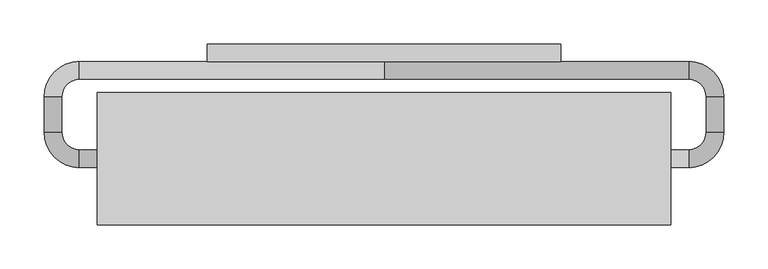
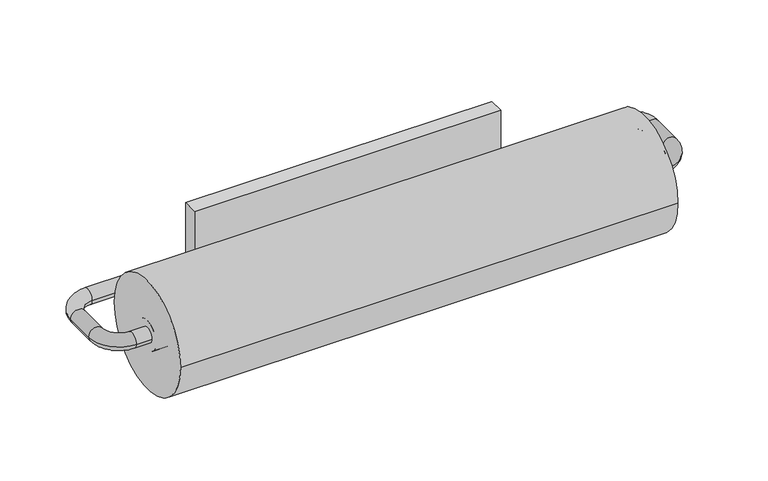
"""IFC4 building model written with IfcOpenShell, lengths in millimetres: proxy geometry, BIMHealth-Paper_Towel_Roll-LOD2A-v1 : BIMHealth-Paper_Towel_Roll-LOD2A-v1."""

from ifc_helpers import new_model, si_unit, point, frame, frame_2d, origin, place, context, project, spatial, polyline, circle_curve, ellipse_curve, trimmed, segment, composite_curve, outline, extrude, source, transform, mapped, element, save
from ifc_brep_helpers import plane_surface, cylinder_surface, revolved_surface, advanced_brep


def generic_models_3f6ca24f(model_context):
    return source(origin(), model_context, "Body", "SolidModel", [
        advanced_brep(
        [(0.0, 10.0, 1200.0), (-345.0, 10.0, 1200.0), (-345.0, -10.0, 1200.0), (0.0, -10.0, 1200.0), (-365.0, -30.0, 1200.0), (-385.0, -30.0, 1200.0), (-385.0, -70.0, 1200.0), (-365.0, -70.0, 1200.0), (-195.0, -110.0, 1200.0), (-195.0, -90.0, 1200.0), (-345.0, -90.0, 1200.0), (-345.0, -110.0, 1200.0), (345.0, -10.0, 1200.0), (345.0, 10.0, 1200.0), (385.0, -30.0, 1200.0), (365.0, -30.0, 1200.0), (365.0, -70.0, 1200.0), (385.0, -70.0, 1200.0), (195.0, -110.0, 1200.0), (195.0, -90.0, 1200.0), (345.0, -110.0, 1200.0), (345.0, -90.0, 1200.0)],
        [
            (0, 1),
            (1, 2, circle_curve(frame((-345.0, 0.0, 1200.0), z_axis=(1.0, 0.0, 0.0), x_axis=(0.0, -1.0, 0.0)), 10.0)),
            (2, 3),
            (3, 0, circle_curve(frame((0.0, 0.0, 1200.0), z_axis=(-1.0, 0.0, 0.0), x_axis=(0.0, -1.0, 0.0)), 10.0)),
            (0, 3, circle_curve(frame((0.0, 0.0, 1200.0), z_axis=(-1.0, 0.0, 0.0), x_axis=(0.0, -1.0, 0.0)), 10.0)),
            (2, 1, circle_curve(frame((-345.0, 0.0, 1200.0), z_axis=(1.0, 0.0, 0.0), x_axis=(0.0, -1.0, 0.0)), 10.0)),
            (4, 5, circle_curve(frame((-375.0, -30.0, 1200.0), z_axis=(0.0, -1.0, 0.0), x_axis=(1.0, 0.0, 0.0)), 10.0)),
            (5, 6),
            (6, 7, circle_curve(frame((-375.0, -70.0, 1200.0), z_axis=(0.0, 1.0, 0.0), x_axis=(1.0, 0.0, 0.0)), 10.0)),
            (7, 4),
            (5, 4, circle_curve(frame((-375.0, -30.0, 1200.0), z_axis=(0.0, -1.0, 0.0), x_axis=(1.0, 0.0, 0.0)), 10.0)),
            (7, 6, circle_curve(frame((-375.0, -70.0, 1200.0), z_axis=(0.0, 1.0, 0.0), x_axis=(1.0, 0.0, 0.0)), 10.0)),
            (8, 9, circle_curve(frame((-195.0, -100.0, 1200.0), z_axis=(1.0, 0.0, 0.0), x_axis=(0.0, 1.0, 0.0)), 10.0)),
            (9, 8, circle_curve(frame((-195.0, -100.0, 1200.0), z_axis=(1.0, 0.0, 0.0), x_axis=(0.0, 1.0, 0.0)), 10.0)),
            (9, 10),
            (10, 11, circle_curve(frame((-345.0, -100.0, 1200.0), z_axis=(1.0, 0.0, 0.0), x_axis=(0.0, 1.0, 0.0)), 10.0)),
            (11, 8),
            (11, 10, circle_curve(frame((-345.0, -100.0, 1200.0), z_axis=(1.0, 0.0, 0.0), x_axis=(0.0, 1.0, 0.0)), 10.0)),
            (1, 5, circle_curve(frame((-345.0, -30.0, 1200.0), z_axis=(0.0, 0.0, 1.0), x_axis=(0.0, 1.0, 0.0)), 40.0)),
            (4, 2, circle_curve(frame((-345.0, -30.0, 1200.0), z_axis=(0.0, 0.0, -1.0), x_axis=(0.0, 1.0, 0.0)), 20.0)),
            (6, 11, circle_curve(frame((-345.0, -70.0, 1200.0), z_axis=(0.0, 0.0, 1.0), x_axis=(-1.0, 0.0, 0.0)), 40.0)),
            (10, 7, circle_curve(frame((-345.0, -70.0, 1200.0), z_axis=(0.0, 0.0, -1.0), x_axis=(-1.0, 0.0, 0.0)), 20.0)),
            (3, 12),
            (12, 13, circle_curve(frame((345.0, 0.0, 1200.0), z_axis=(-1.0, 0.0, 0.0), x_axis=(0.0, -1.0, 0.0)), 10.0)),
            (13, 0),
            (13, 12, circle_curve(frame((345.0, 0.0, 1200.0), z_axis=(-1.0, 0.0, 0.0), x_axis=(0.0, -1.0, 0.0)), 10.0)),
            (14, 15, circle_curve(frame((375.0, -30.0, 1200.0), z_axis=(0.0, -1.0, 0.0), x_axis=(-1.0, 0.0, 0.0)), 10.0)),
            (15, 16),
            (16, 17, circle_curve(frame((375.0, -70.0, 1200.0), z_axis=(0.0, 1.0, 0.0), x_axis=(-1.0, 0.0, 0.0)), 10.0)),
            (17, 14),
            (15, 14, circle_curve(frame((375.0, -30.0, 1200.0), z_axis=(0.0, -1.0, 0.0), x_axis=(-1.0, 0.0, 0.0)), 10.0)),
            (17, 16, circle_curve(frame((375.0, -70.0, 1200.0), z_axis=(0.0, 1.0, 0.0), x_axis=(-1.0, 0.0, 0.0)), 10.0)),
            (18, 19, circle_curve(frame((195.0, -100.0, 1200.0), z_axis=(-1.0, 0.0, 0.0), x_axis=(0.0, 1.0, 0.0)), 10.0)),
            (19, 18, circle_curve(frame((195.0, -100.0, 1200.0), z_axis=(-1.0, 0.0, 0.0), x_axis=(0.0, 1.0, 0.0)), 10.0)),
            (18, 20),
            (20, 21, circle_curve(frame((345.0, -100.0, 1200.0), z_axis=(-1.0, 0.0, 0.0), x_axis=(0.0, 1.0, 0.0)), 10.0)),
            (21, 19),
            (21, 20, circle_curve(frame((345.0, -100.0, 1200.0), z_axis=(-1.0, 0.0, 0.0), x_axis=(0.0, 1.0, 0.0)), 10.0)),
            (12, 15, circle_curve(frame((345.0, -30.0, 1200.0), z_axis=(0.0, 0.0, -1.0), x_axis=(0.0, 1.0, 0.0)), 20.0)),
            (14, 13, circle_curve(frame((345.0, -30.0, 1200.0), z_axis=(0.0, 0.0, 1.0), x_axis=(0.0, 1.0, 0.0)), 40.0)),
            (16, 21, circle_curve(frame((345.0, -70.0, 1200.0), z_axis=(0.0, 0.0, -1.0), x_axis=(1.0, 0.0, 0.0)), 20.0)),
            (20, 17, circle_curve(frame((345.0, -70.0, 1200.0), z_axis=(0.0, 0.0, 1.0), x_axis=(1.0, 0.0, 0.0)), 40.0)),
        ],
        [
            cylinder_surface(frame((0.0, 0.0, 1200.0), z_axis=(1.0, 0.0, 0.0), x_axis=(0.0, -1.0, 0.0)), 10.0),
            cylinder_surface(frame((-375.0, -30.0, 1200.0), z_axis=(0.0, 1.0, 0.0), x_axis=(1.0, 0.0, 0.0)), 10.0),
            plane_surface(frame((-195.0, -100.0, 0.0), z_axis=(1.0, 0.0, 0.0), x_axis=(0.0, 0.0, 1.0))),
            cylinder_surface(frame((-345.0, -100.0, 1200.0), z_axis=(-1.0, 0.0, 0.0), x_axis=(0.0, 1.0, 0.0)), 10.0),
            revolved_surface(trimmed(ellipse_curve(frame((-345.0, 0.0, 1200.0), z_axis=(1.0, 0.0, 0.0), x_axis=(0.0, -1.0, 0.0)), 10.0, 10.0), [point((-345.0, 10.0, 1200.0))], [point((-345.0, -10.0, 1200.0))], True, "CARTESIAN"), (-345.0, -30.0, 0.0), (0.0, 0.0, 1.0)),
            revolved_surface(trimmed(ellipse_curve(frame((-345.0, 0.0, 1200.0), z_axis=(1.0, 0.0, 0.0), x_axis=(0.0, -1.0, 0.0)), 10.0, 10.0), [point((-345.0, -10.0, 1200.0))], [point((-345.0, 10.0, 1200.0))], True, "CARTESIAN"), (-345.0, -30.0, 0.0), (0.0, 0.0, 1.0)),
            revolved_surface(trimmed(ellipse_curve(frame((-375.0, -70.0, 1200.0), z_axis=(0.0, 1.0, 0.0), x_axis=(1.0, 0.0, 0.0)), 10.0, 10.0), [point((-385.0, -70.0, 1200.0))], [point((-365.0, -70.0, 1200.0))], True, "CARTESIAN"), (-345.0, -70.0, 0.0), (0.0, 0.0, 1.0)),
            revolved_surface(trimmed(ellipse_curve(frame((-375.0, -70.0, 1200.0), z_axis=(0.0, 1.0, 0.0), x_axis=(1.0, 0.0, 0.0)), 10.0, 10.0), [point((-365.0, -70.0, 1200.0))], [point((-385.0, -70.0, 1200.0))], True, "CARTESIAN"), (-345.0, -70.0, 0.0), (0.0, 0.0, 1.0)),
            cylinder_surface(frame((0.0, 0.0, 1200.0), z_axis=(-1.0, 0.0, 0.0), x_axis=(0.0, -1.0, 0.0)), 10.0),
            cylinder_surface(frame((375.0, -30.0, 1200.0), z_axis=(0.0, 1.0, 0.0), x_axis=(-1.0, 0.0, 0.0)), 10.0),
            plane_surface(frame((195.0, -100.0, 0.0), z_axis=(-1.0, 0.0, 0.0), x_axis=(0.0, 0.0, 1.0))),
            cylinder_surface(frame((345.0, -100.0, 1200.0), z_axis=(1.0, 0.0, 0.0), x_axis=(0.0, 1.0, 0.0)), 10.0),
            revolved_surface(trimmed(ellipse_curve(frame((345.0, 0.0, 1200.0), z_axis=(-1.0, 0.0, 0.0), x_axis=(0.0, -1.0, 0.0)), 10.0, 10.0), [point((345.0, -10.0, 1200.0))], [point((345.0, 10.0, 1200.0))], True, "CARTESIAN"), (345.0, -30.0, 0.0), (0.0, 0.0, -1.0)),
            revolved_surface(trimmed(ellipse_curve(frame((345.0, 0.0, 1200.0), z_axis=(-1.0, 0.0, 0.0), x_axis=(0.0, -1.0, 0.0)), 10.0, 10.0), [point((345.0, 10.0, 1200.0))], [point((345.0, -10.0, 1200.0))], True, "CARTESIAN"), (345.0, -30.0, 0.0), (0.0, 0.0, -1.0)),
            revolved_surface(trimmed(ellipse_curve(frame((375.0, -70.0, 1200.0), z_axis=(0.0, 1.0, 0.0), x_axis=(-1.0, 0.0, 0.0)), 10.0, 10.0), [point((365.0, -70.0, 1200.0))], [point((385.0, -70.0, 1200.0))], True, "CARTESIAN"), (345.0, -70.0, 0.0), (0.0, 0.0, -1.0)),
            revolved_surface(trimmed(ellipse_curve(frame((375.0, -70.0, 1200.0), z_axis=(0.0, 1.0, 0.0), x_axis=(-1.0, 0.0, 0.0)), 10.0, 10.0), [point((385.0, -70.0, 1200.0))], [point((365.0, -70.0, 1200.0))], True, "CARTESIAN"), (345.0, -70.0, 0.0), (0.0, 0.0, -1.0)),
        ],
        [
            (0, [[1, 2, 3, 4]]),
            (0, [[-1, 5, -3, 6]]),
            (1, [[7, 8, 9, 10]]),
            (1, [[-8, 11, -10, 12]]),
            (2, [[13, 14]]),
            (3, [[-14, 15, 16, 17]]),
            (3, [[-13, -17, 18, -15]]),
            (4, [[-2, 19, -7, 20]]),
            (5, [[-6, -20, -11, -19]]),
            (6, [[-9, 21, -16, 22]]),
            (7, [[-12, -22, -18, -21]]),
            (8, [[23, 24, 25, -4]]),
            (8, [[-23, -5, -25, 26]]),
            (9, [[27, 28, 29, 30]]),
            (9, [[-28, 31, -30, 32]]),
            (10, [[33, 34]]),
            (11, [[-33, 35, 36, 37]]),
            (11, [[-34, -37, 38, -35]]),
            (12, [[-24, 39, -27, 40]]),
            (13, [[-26, -40, -31, -39]]),
            (14, [[-29, 41, -36, 42]]),
            (15, [[-32, -42, -38, -41]]),
        ],
    ),
        extrude(outline(polyline([(-200.0, 10.0), (-200.0, 30.0), (200.0, 30.0), (200.0, 10.0), (-200.0, 10.0)])), frame((0.0, 0.0, 1140.0), z_axis=(0.0, 0.0, 1.0), x_axis=(1.0, 0.0, 0.0)), (0.0, 0.0, 1.0), 120.0),
        extrude(outline(composite_curve([segment(trimmed(circle_curve(frame_2d((-100.0, 1200.0)), 75.0), [point((-25.0, 1200.0))], [point((-175.0, 1200.0))], False, "CARTESIAN"), True, "CONTINUOUS"), segment(trimmed(circle_curve(frame_2d((-100.0, 1200.0)), 75.0), [point((-175.0, 1200.0))], [point((-25.0, 1200.0))], False, "CARTESIAN"), True, "CONTINUOUS")], self_intersect=False)), frame((-325.0, 0.0, 0.0), z_axis=(1.0, 0.0, 0.0), x_axis=(0.0, 1.0, 0.0)), (0.0, 0.0, 1.0), 650.0),
        extrude(outline(composite_curve([segment(trimmed(circle_curve(frame_2d((-100.0, 1200.0)), 20.0), [point((-80.0, 1200.0))], [point((-120.0, 1200.0))], False, "CARTESIAN"), True, "CONTINUOUS"), segment(trimmed(circle_curve(frame_2d((-100.0, 1200.0)), 20.0), [point((-120.0, 1200.0))], [point((-80.0, 1200.0))], False, "CARTESIAN"), True, "CONTINUOUS")], self_intersect=False)), frame((-325.0, 0.0, 0.0), z_axis=(1.0, 0.0, 0.0), x_axis=(0.0, 1.0, 0.0)), (0.0, 0.0, 1.0), 650.0),
    ])


if __name__ == "__main__":
    model = new_model("IFC4")
    model_context = context("Model", 3, world=origin())
    ifc_project = project(units=[si_unit("LENGTHUNIT", "METRE", prefix="MILLI")], contexts=[model_context])
    site = spatial("IfcSite", under=ifc_project)
    building = spatial("IfcBuilding", under=site)
    placement = place(None, origin())
    generic_models_shape = generic_models_3f6ca24f(model_context)
    element("IfcBuildingElementProxy", 1, Name="BIMHealth-Paper_Towel_Roll-LOD2A-v1 : BIMHealth-Paper_Towel_Roll-LOD2A-v1", ObjectType="BIMHealth-Paper_Towel_Roll-LOD2A-v1 : BIMHealth-Paper_Towel_Roll-LOD2A-v1", at=placement, inside=building, context=model_context, shape_type="MappedRepresentation", body=[
        mapped(generic_models_shape, transform((0.0, 0.0, 0.0), x_axis=(1.0, 0.0, 0.0), y_axis=(0.0, 1.0, 0.0), z_axis=(0.0, 0.0, 1.0))),
    ])
    save(model, "model.ifc")
